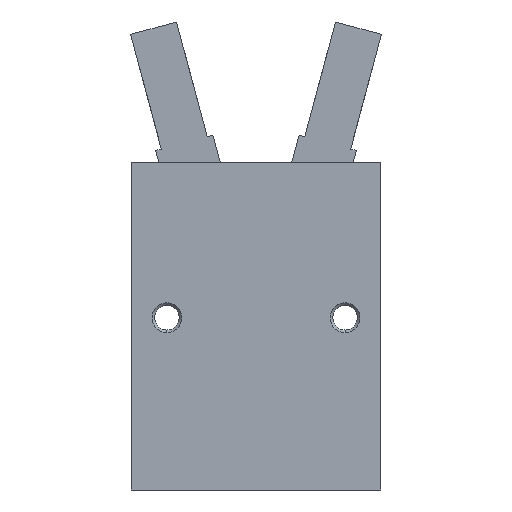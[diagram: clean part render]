
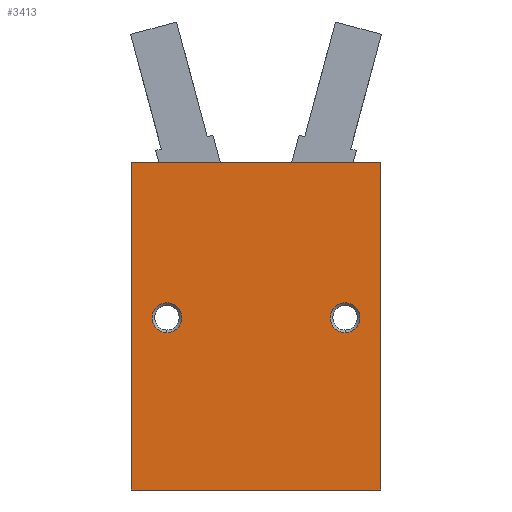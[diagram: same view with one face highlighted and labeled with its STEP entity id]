
A CAD part, front view. The second image highlights one B-rep face of the part: STEP entity #3413.
In plain terms, the highlighted planar face has unit normal (0, -1, 0).
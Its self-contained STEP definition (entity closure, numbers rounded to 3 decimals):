
#24 = DIRECTION ( 'NONE',  ( 0., 0., -1. ) ) ;
#65 = EDGE_CURVE ( 'NONE', #1632, #2818, #4185, .T. ) ;
#125 = VECTOR ( 'NONE', #2668, 1000. ) ;
#142 = EDGE_LOOP ( 'NONE', ( #3945, #5021, #5136, #4079 ) ) ;
#171 = CIRCLE ( 'NONE', #3946, 2.5 ) ;
#248 = EDGE_CURVE ( 'NONE', #3820, #3539, #4372, .T. ) ;
#341 = VECTOR ( 'NONE', #4679, 1000. ) ;
#456 = AXIS2_PLACEMENT_3D ( 'NONE', #3381, #938, #3805 ) ;
#487 = ORIENTED_EDGE ( 'NONE', *, *, #2157, .T. ) ;
#559 = EDGE_CURVE ( 'NONE', #604, #3820, #2543, .T. ) ;
#583 = VECTOR ( 'NONE', #4451, 1000. ) ;
#604 = VERTEX_POINT ( 'NONE', #3471 ) ;
#886 = CARTESIAN_POINT ( 'NONE',  ( -15., -13.8, 29. ) ) ;
#911 = CIRCLE ( 'NONE', #456, 2.5 ) ;
#938 = DIRECTION ( 'NONE',  ( 0., 1., 0. ) ) ;
#967 = AXIS2_PLACEMENT_3D ( 'NONE', #5249, #2032, #4864 ) ;
#1295 = DIRECTION ( 'NONE',  ( 0., 0., -1. ) ) ;
#1321 = CARTESIAN_POINT ( 'NONE',  ( -15., -13.8, 31.5 ) ) ;
#1329 = DIRECTION ( 'NONE',  ( 0., 1., 0. ) ) ;
#1443 = VERTEX_POINT ( 'NONE', #2512 ) ;
#1554 = FACE_OUTER_BOUND ( 'NONE', #142, .T. ) ;
#1562 = CIRCLE ( 'NONE', #3095, 2.5 ) ;
#1593 = ORIENTED_EDGE ( 'NONE', *, *, #4036, .T. ) ;
#1613 = PLANE ( 'NONE',  #967 ) ;
#1632 = VERTEX_POINT ( 'NONE', #1321 ) ;
#1678 = CARTESIAN_POINT ( 'NONE',  ( -21., -13.8, 55.2 ) ) ;
#1715 = VERTEX_POINT ( 'NONE', #2901 ) ;
#2032 = DIRECTION ( 'NONE',  ( 0., -1., 0. ) ) ;
#2153 = CARTESIAN_POINT ( 'NONE',  ( -21., -13.8, 0. ) ) ;
#2157 = EDGE_CURVE ( 'NONE', #2818, #1632, #171, .T. ) ;
#2225 = DIRECTION ( 'NONE',  ( -1., 0., 0. ) ) ;
#2383 = EDGE_LOOP ( 'NONE', ( #487, #2672 ) ) ;
#2421 = ORIENTED_EDGE ( 'NONE', *, *, #2959, .T. ) ;
#2495 = VERTEX_POINT ( 'NONE', #4084 ) ;
#2512 = CARTESIAN_POINT ( 'NONE',  ( 21., -13.8, 55.2 ) ) ;
#2543 = LINE ( 'NONE', #3883, #341 ) ;
#2586 = VECTOR ( 'NONE', #2225, 1000. ) ;
#2648 = FACE_BOUND ( 'NONE', #2941, .T. ) ;
#2668 = DIRECTION ( 'NONE',  ( 0., 0., 1. ) ) ;
#2672 = ORIENTED_EDGE ( 'NONE', *, *, #65, .T. ) ;
#2818 = VERTEX_POINT ( 'NONE', #4485 ) ;
#2901 = CARTESIAN_POINT ( 'NONE',  ( 15., -13.8, 31.5 ) ) ;
#2941 = EDGE_LOOP ( 'NONE', ( #1593, #2421 ) ) ;
#2959 = EDGE_CURVE ( 'NONE', #1715, #2495, #1562, .T. ) ;
#3095 = AXIS2_PLACEMENT_3D ( 'NONE', #3788, #1329, #4187 ) ;
#3381 = CARTESIAN_POINT ( 'NONE',  ( 15., -13.8, 29. ) ) ;
#3393 = EDGE_CURVE ( 'NONE', #604, #1443, #5172, .T. ) ;
#3413 = ADVANCED_FACE ( 'NONE', ( #3599, #2648, #1554 ), #1613, .T. ) ;
#3471 = CARTESIAN_POINT ( 'NONE',  ( 21., -13.8, 0. ) ) ;
#3539 = VERTEX_POINT ( 'NONE', #1678 ) ;
#3599 = FACE_BOUND ( 'NONE', #2383, .T. ) ;
#3758 = DIRECTION ( 'NONE',  ( 0., 1., 0. ) ) ;
#3788 = CARTESIAN_POINT ( 'NONE',  ( 15., -13.8, 29. ) ) ;
#3805 = DIRECTION ( 'NONE',  ( 0., 0., -1. ) ) ;
#3820 = VERTEX_POINT ( 'NONE', #4429 ) ;
#3883 = CARTESIAN_POINT ( 'NONE',  ( 0., -13.8, 0. ) ) ;
#3915 = CARTESIAN_POINT ( 'NONE',  ( 0., -13.8, 55.2 ) ) ;
#3945 = ORIENTED_EDGE ( 'NONE', *, *, #559, .F. ) ;
#3946 = AXIS2_PLACEMENT_3D ( 'NONE', #886, #3758, #1295 ) ;
#4036 = EDGE_CURVE ( 'NONE', #2495, #1715, #911, .T. ) ;
#4037 = CARTESIAN_POINT ( 'NONE',  ( 21., -13.8, 0. ) ) ;
#4079 = ORIENTED_EDGE ( 'NONE', *, *, #248, .F. ) ;
#4084 = CARTESIAN_POINT ( 'NONE',  ( 15., -13.8, 26.5 ) ) ;
#4185 = CIRCLE ( 'NONE', #4475, 2.5 ) ;
#4187 = DIRECTION ( 'NONE',  ( 0., 0., -1. ) ) ;
#4200 = DIRECTION ( 'NONE',  ( 0., 1., 0. ) ) ;
#4228 = EDGE_CURVE ( 'NONE', #1443, #3539, #4609, .T. ) ;
#4285 = CARTESIAN_POINT ( 'NONE',  ( -15., -13.8, 29. ) ) ;
#4372 = LINE ( 'NONE', #2153, #125 ) ;
#4429 = CARTESIAN_POINT ( 'NONE',  ( -21., -13.8, 0. ) ) ;
#4451 = DIRECTION ( 'NONE',  ( 0., 0., 1. ) ) ;
#4475 = AXIS2_PLACEMENT_3D ( 'NONE', #4285, #4200, #24 ) ;
#4485 = CARTESIAN_POINT ( 'NONE',  ( -15., -13.8, 26.5 ) ) ;
#4609 = LINE ( 'NONE', #3915, #2586 ) ;
#4679 = DIRECTION ( 'NONE',  ( -1., 0., 0. ) ) ;
#4864 = DIRECTION ( 'NONE',  ( 1., 0., 0. ) ) ;
#5021 = ORIENTED_EDGE ( 'NONE', *, *, #3393, .T. ) ;
#5136 = ORIENTED_EDGE ( 'NONE', *, *, #4228, .T. ) ;
#5172 = LINE ( 'NONE', #4037, #583 ) ;
#5249 = CARTESIAN_POINT ( 'NONE',  ( -21., -13.8, 0. ) ) ;
